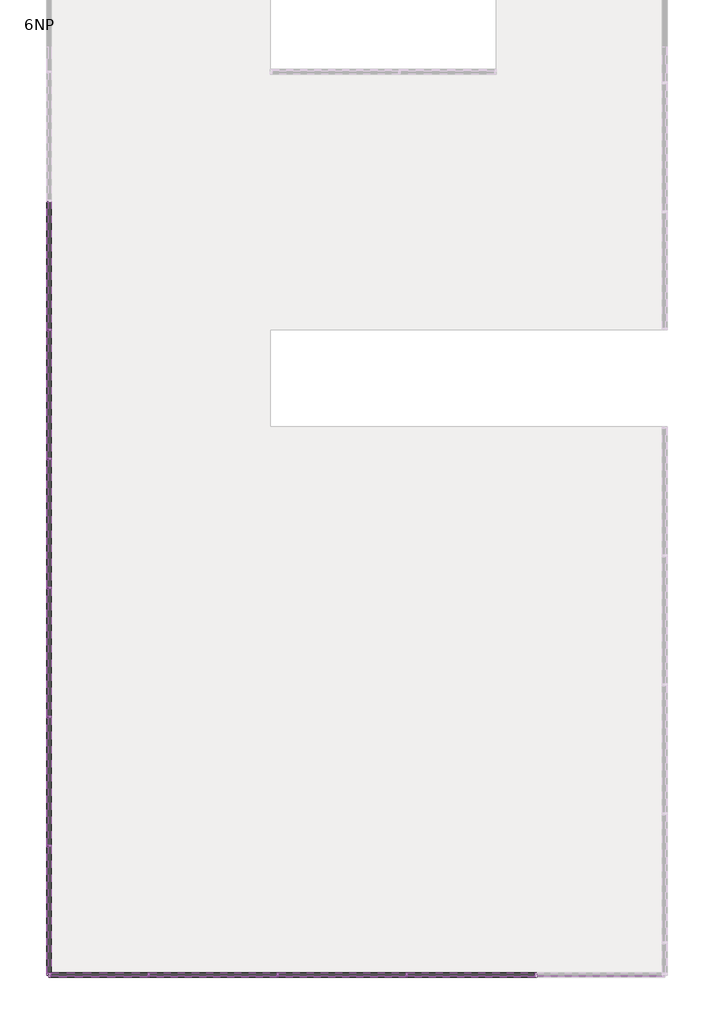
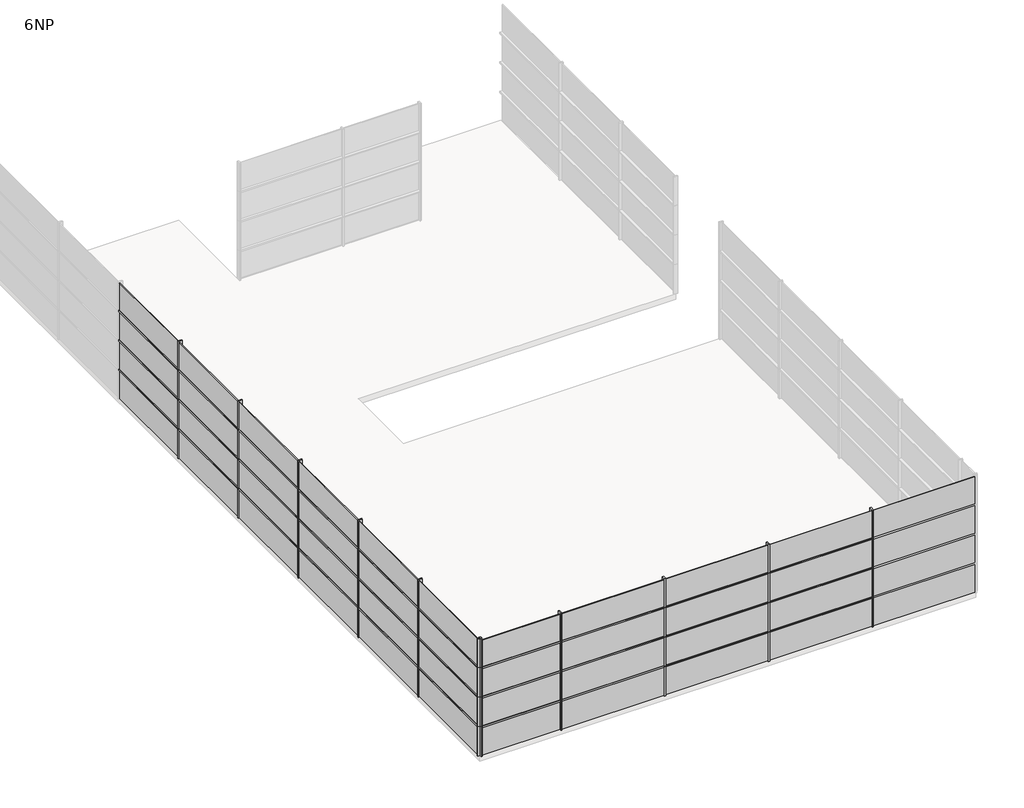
# One storey, part 1 of 3: 74 members, 47 plates.
"""IFC4 building model written with IfcOpenShell, lengths in millimetres."""

from ifc_helpers import new_model, si_unit, origin, place, context, project, spatial, transform, mapped, element, save
from components import rectangular_mullion_50_x_150mm_d99dc9be, rectangular_mullion_50_x_150mm_6588f46c, rectangular_mullion_50_x_150mm_a037c29c, rectangular_mullion_50_x_150mm_c2546fd4, rectangular_mullion_50_x_150mm_568dda71, rectangular_mullion_50_x_150mm_268a5786, rectangular_mullion_50_x_150mm_cd873b1a, system_panel_glazed_8e9402eb, system_panel_glazed_89ac83a7, system_panel_glazed_cf4d7c03, system_panel_glazed_7b3729bb, system_panel_glazed_8c18451d, system_panel_glazed_2dc425e2, system_panel_glazed_f5baf7a3

model = new_model("IFC4")

# Units and contexts
model_context = context("Model", 3, world=origin())
ifc_project = project(units=[si_unit("LENGTHUNIT", "METRE", prefix="MILLI")], contexts=[model_context])

# Site, building, storey
site = spatial("IfcSite", under=ifc_project)
building = spatial("IfcBuilding", under=site)
storey = spatial("IfcBuildingStorey", under=building, Name="6NP", Elevation=24000.0)

# Members
placement = place(None, origin())
rectangular_mullion_50_x_150mm_shape = rectangular_mullion_50_x_150mm_d99dc9be(model_context)
element("IfcMember", 1, ObjectType="Rectangular Mullion : 50 x 150mm", at=placement, inside=storey, context=model_context, shape_type="MappedRepresentation", body=[
    mapped(rectangular_mullion_50_x_150mm_shape, transform((9503.2660975, -23624.0160434, 25200.0), x_axis=(-1.0, 0.0, 0.0), y_axis=(0.0, -1.0, 0.0), z_axis=(0.0, 0.0, 1.0))),
])
element("IfcMember", 2, ObjectType="Rectangular Mullion : 50 x 150mm", at=placement, inside=storey, context=model_context, shape_type="MappedRepresentation", body=[
    mapped(rectangular_mullion_50_x_150mm_shape, transform((9503.2660975, -23624.0160434, 26400.0), x_axis=(-1.0, 0.0, 0.0), y_axis=(0.0, -1.0, 0.0), z_axis=(0.0, 0.0, 1.0))),
])
element("IfcMember", 3, ObjectType="Rectangular Mullion : 50 x 150mm", at=placement, inside=storey, context=model_context, shape_type="MappedRepresentation", body=[
    mapped(rectangular_mullion_50_x_150mm_shape, transform((9503.2660975, -23624.0160434, 27600.0), x_axis=(-1.0, 0.0, 0.0), y_axis=(0.0, -1.0, 0.0), z_axis=(0.0, 0.0, 1.0))),
])
element("IfcMember", 4, ObjectType="Rectangular Mullion : 50 x 150mm", at=placement, inside=storey, context=model_context, shape_type="MappedRepresentation", body=[
    mapped(rectangular_mullion_50_x_150mm_shape, transform((5503.2660975, -23624.0160434, 25200.0), x_axis=(-1.0, 0.0, 0.0), y_axis=(0.0, -1.0, 0.0), z_axis=(0.0, 0.0, 1.0))),
])
element("IfcMember", 5, ObjectType="Rectangular Mullion : 50 x 150mm", at=placement, inside=storey, context=model_context, shape_type="MappedRepresentation", body=[
    mapped(rectangular_mullion_50_x_150mm_shape, transform((5503.2660975, -23624.0160434, 26400.0), x_axis=(-1.0, 0.0, 0.0), y_axis=(0.0, -1.0, 0.0), z_axis=(0.0, 0.0, 1.0))),
])
element("IfcMember", 6, ObjectType="Rectangular Mullion : 50 x 150mm", at=placement, inside=storey, context=model_context, shape_type="MappedRepresentation", body=[
    mapped(rectangular_mullion_50_x_150mm_shape, transform((5503.2660975, -23624.0160434, 27600.0), x_axis=(-1.0, 0.0, 0.0), y_axis=(0.0, -1.0, 0.0), z_axis=(0.0, 0.0, 1.0))),
])
element("IfcMember", 7, ObjectType="Rectangular Mullion : 50 x 150mm", at=placement, inside=storey, context=model_context, shape_type="MappedRepresentation", body=[
    mapped(rectangular_mullion_50_x_150mm_shape, transform((1503.2660975, -23624.0160434, 25200.0), x_axis=(-1.0, 0.0, 0.0), y_axis=(0.0, -1.0, 0.0), z_axis=(0.0, 0.0, 1.0))),
])
element("IfcMember", 8, ObjectType="Rectangular Mullion : 50 x 150mm", at=placement, inside=storey, context=model_context, shape_type="MappedRepresentation", body=[
    mapped(rectangular_mullion_50_x_150mm_shape, transform((1503.2660975, -23624.0160434, 26400.0), x_axis=(-1.0, 0.0, 0.0), y_axis=(0.0, -1.0, 0.0), z_axis=(0.0, 0.0, 1.0))),
])
element("IfcMember", 9, ObjectType="Rectangular Mullion : 50 x 150mm", at=placement, inside=storey, context=model_context, shape_type="MappedRepresentation", body=[
    mapped(rectangular_mullion_50_x_150mm_shape, transform((1503.2660975, -23624.0160434, 27600.0), x_axis=(-1.0, 0.0, 0.0), y_axis=(0.0, -1.0, 0.0), z_axis=(0.0, 0.0, 1.0))),
])
element("IfcMember", 10, ObjectType="Rectangular Mullion : 50 x 150mm", at=placement, inside=storey, context=model_context, shape_type="MappedRepresentation", body=[
    mapped(rectangular_mullion_50_x_150mm_shape, transform((-2496.7339025, -23624.0160434, 25200.0), x_axis=(-1.0, 0.0, 0.0), y_axis=(0.0, -1.0, 0.0), z_axis=(0.0, 0.0, 1.0))),
])
element("IfcMember", 11, ObjectType="Rectangular Mullion : 50 x 150mm", at=placement, inside=storey, context=model_context, shape_type="MappedRepresentation", body=[
    mapped(rectangular_mullion_50_x_150mm_shape, transform((-2496.7339025, -23624.0160434, 26400.0), x_axis=(-1.0, 0.0, 0.0), y_axis=(0.0, -1.0, 0.0), z_axis=(0.0, 0.0, 1.0))),
])
element("IfcMember", 12, ObjectType="Rectangular Mullion : 50 x 150mm", at=placement, inside=storey, context=model_context, shape_type="MappedRepresentation", body=[
    mapped(rectangular_mullion_50_x_150mm_shape, transform((-2496.7339025, -23624.0160434, 27600.0), x_axis=(-1.0, 0.0, 0.0), y_axis=(0.0, -1.0, 0.0), z_axis=(0.0, 0.0, 1.0))),
])
element("IfcMember", 13, ObjectType="Rectangular Mullion : 50 x 150mm", at=placement, inside=storey, context=model_context, shape_type="MappedRepresentation", body=[
    mapped(rectangular_mullion_50_x_150mm_shape, transform((-5587.173406, -19624.0160434, 25200.0), x_axis=(0.0, 1.0, 0.0), y_axis=(-1.0, 0.0, 0.0), z_axis=(0.0, 0.0, 1.0))),
])
element("IfcMember", 14, ObjectType="Rectangular Mullion : 50 x 150mm", at=placement, inside=storey, context=model_context, shape_type="MappedRepresentation", body=[
    mapped(rectangular_mullion_50_x_150mm_shape, transform((-5587.173406, -19624.0160434, 26400.0), x_axis=(0.0, 1.0, 0.0), y_axis=(-1.0, 0.0, 0.0), z_axis=(0.0, 0.0, 1.0))),
])
element("IfcMember", 15, ObjectType="Rectangular Mullion : 50 x 150mm", at=placement, inside=storey, context=model_context, shape_type="MappedRepresentation", body=[
    mapped(rectangular_mullion_50_x_150mm_shape, transform((-5587.173406, -19624.0160434, 27600.0), x_axis=(0.0, 1.0, 0.0), y_axis=(-1.0, 0.0, 0.0), z_axis=(0.0, 0.0, 1.0))),
])
element("IfcMember", 16, ObjectType="Rectangular Mullion : 50 x 150mm", at=placement, inside=storey, context=model_context, shape_type="MappedRepresentation", body=[
    mapped(rectangular_mullion_50_x_150mm_shape, transform((-5587.173406, -15624.0160434, 25200.0), x_axis=(0.0, 1.0, 0.0), y_axis=(-1.0, 0.0, 0.0), z_axis=(0.0, 0.0, 1.0))),
])
element("IfcMember", 17, ObjectType="Rectangular Mullion : 50 x 150mm", at=placement, inside=storey, context=model_context, shape_type="MappedRepresentation", body=[
    mapped(rectangular_mullion_50_x_150mm_shape, transform((-5587.173406, -15624.0160434, 26400.0), x_axis=(0.0, 1.0, 0.0), y_axis=(-1.0, 0.0, 0.0), z_axis=(0.0, 0.0, 1.0))),
])
element("IfcMember", 18, ObjectType="Rectangular Mullion : 50 x 150mm", at=placement, inside=storey, context=model_context, shape_type="MappedRepresentation", body=[
    mapped(rectangular_mullion_50_x_150mm_shape, transform((-5587.173406, -15624.0160434, 27600.0), x_axis=(0.0, 1.0, 0.0), y_axis=(-1.0, 0.0, 0.0), z_axis=(0.0, 0.0, 1.0))),
])
element("IfcMember", 19, ObjectType="Rectangular Mullion : 50 x 150mm", at=placement, inside=storey, context=model_context, shape_type="MappedRepresentation", body=[
    mapped(rectangular_mullion_50_x_150mm_shape, transform((-5587.173406, -11624.0160434, 25200.0), x_axis=(0.0, 1.0, 0.0), y_axis=(-1.0, 0.0, 0.0), z_axis=(0.0, 0.0, 1.0))),
])
element("IfcMember", 20, ObjectType="Rectangular Mullion : 50 x 150mm", at=placement, inside=storey, context=model_context, shape_type="MappedRepresentation", body=[
    mapped(rectangular_mullion_50_x_150mm_shape, transform((-5587.173406, -11624.0160434, 26400.0), x_axis=(0.0, 1.0, 0.0), y_axis=(-1.0, 0.0, 0.0), z_axis=(0.0, 0.0, 1.0))),
])
element("IfcMember", 21, ObjectType="Rectangular Mullion : 50 x 150mm", at=placement, inside=storey, context=model_context, shape_type="MappedRepresentation", body=[
    mapped(rectangular_mullion_50_x_150mm_shape, transform((-5587.173406, -11624.0160434, 27600.0), x_axis=(0.0, 1.0, 0.0), y_axis=(-1.0, 0.0, 0.0), z_axis=(0.0, 0.0, 1.0))),
])
element("IfcMember", 22, ObjectType="Rectangular Mullion : 50 x 150mm", at=placement, inside=storey, context=model_context, shape_type="MappedRepresentation", body=[
    mapped(rectangular_mullion_50_x_150mm_shape, transform((-5587.173406, -7624.0160434, 25200.0), x_axis=(0.0, 1.0, 0.0), y_axis=(-1.0, 0.0, 0.0), z_axis=(0.0, 0.0, 1.0))),
])
element("IfcMember", 23, ObjectType="Rectangular Mullion : 50 x 150mm", at=placement, inside=storey, context=model_context, shape_type="MappedRepresentation", body=[
    mapped(rectangular_mullion_50_x_150mm_shape, transform((-5587.173406, -7624.0160434, 26400.0), x_axis=(0.0, 1.0, 0.0), y_axis=(-1.0, 0.0, 0.0), z_axis=(0.0, 0.0, 1.0))),
])
element("IfcMember", 24, ObjectType="Rectangular Mullion : 50 x 150mm", at=placement, inside=storey, context=model_context, shape_type="MappedRepresentation", body=[
    mapped(rectangular_mullion_50_x_150mm_shape, transform((-5587.173406, -7624.0160434, 27600.0), x_axis=(0.0, 1.0, 0.0), y_axis=(-1.0, 0.0, 0.0), z_axis=(0.0, 0.0, 1.0))),
])
element("IfcMember", 25, ObjectType="Rectangular Mullion : 50 x 150mm", at=placement, inside=storey, context=model_context, shape_type="MappedRepresentation", body=[
    mapped(rectangular_mullion_50_x_150mm_shape, transform((-5587.173406, -3624.0160434, 25200.0), x_axis=(0.0, 1.0, 0.0), y_axis=(-1.0, 0.0, 0.0), z_axis=(0.0, 0.0, 1.0))),
])
element("IfcMember", 26, ObjectType="Rectangular Mullion : 50 x 150mm", at=placement, inside=storey, context=model_context, shape_type="MappedRepresentation", body=[
    mapped(rectangular_mullion_50_x_150mm_shape, transform((-5587.173406, -3624.0160434, 26400.0), x_axis=(0.0, 1.0, 0.0), y_axis=(-1.0, 0.0, 0.0), z_axis=(0.0, 0.0, 1.0))),
])
element("IfcMember", 27, ObjectType="Rectangular Mullion : 50 x 150mm", at=placement, inside=storey, context=model_context, shape_type="MappedRepresentation", body=[
    mapped(rectangular_mullion_50_x_150mm_shape, transform((-5587.173406, -3624.0160434, 27600.0), x_axis=(0.0, 1.0, 0.0), y_axis=(-1.0, 0.0, 0.0), z_axis=(0.0, 0.0, 1.0))),
])
rectangular_mullion_50_x_150mm_2_shape = rectangular_mullion_50_x_150mm_6588f46c(model_context)
element("IfcMember", 28, ObjectType="Rectangular Mullion : 50 x 150mm", at=placement, inside=storey, context=model_context, shape_type="MappedRepresentation", body=[
    mapped(rectangular_mullion_50_x_150mm_2_shape, transform((-5587.173406, -23624.0160434, 25200.0), x_axis=(-1.0, 0.0, 0.0), y_axis=(0.0, -1.0, 0.0), z_axis=(0.0, 0.0, 1.0))),
])
element("IfcMember", 29, ObjectType="Rectangular Mullion : 50 x 150mm", at=placement, inside=storey, context=model_context, shape_type="MappedRepresentation", body=[
    mapped(rectangular_mullion_50_x_150mm_2_shape, transform((-5587.173406, -23624.0160434, 26400.0), x_axis=(-1.0, 0.0, 0.0), y_axis=(0.0, -1.0, 0.0), z_axis=(0.0, 0.0, 1.0))),
])
element("IfcMember", 30, ObjectType="Rectangular Mullion : 50 x 150mm", at=placement, inside=storey, context=model_context, shape_type="MappedRepresentation", body=[
    mapped(rectangular_mullion_50_x_150mm_2_shape, transform((-5587.173406, -23624.0160434, 27600.0), x_axis=(-1.0, 0.0, 0.0), y_axis=(0.0, -1.0, 0.0), z_axis=(0.0, 0.0, 1.0))),
])
rectangular_mullion_50_x_150mm_3_shape = rectangular_mullion_50_x_150mm_a037c29c(model_context)
element("IfcMember", 31, ObjectType="Rectangular Mullion : 50 x 150mm", at=placement, inside=storey, context=model_context, shape_type="MappedRepresentation", body=[
    mapped(rectangular_mullion_50_x_150mm_3_shape, transform((9478.2660975, -23624.0160434, 25200.0), x_axis=(0.0, 0.0, 1.0), y_axis=(0.0, -1.0, 0.0), z_axis=(1.0, 0.0, 0.0))),
])
element("IfcMember", 32, ObjectType="Rectangular Mullion : 50 x 150mm", at=placement, inside=storey, context=model_context, shape_type="MappedRepresentation", body=[
    mapped(rectangular_mullion_50_x_150mm_3_shape, transform((5478.2660975, -23624.0160434, 25200.0), x_axis=(0.0, 0.0, 1.0), y_axis=(0.0, -1.0, 0.0), z_axis=(1.0, 0.0, 0.0))),
])
element("IfcMember", 33, ObjectType="Rectangular Mullion : 50 x 150mm", at=placement, inside=storey, context=model_context, shape_type="MappedRepresentation", body=[
    mapped(rectangular_mullion_50_x_150mm_3_shape, transform((1478.2660975, -23624.0160434, 25200.0), x_axis=(0.0, 0.0, 1.0), y_axis=(0.0, -1.0, 0.0), z_axis=(1.0, 0.0, 0.0))),
])
element("IfcMember", 34, ObjectType="Rectangular Mullion : 50 x 150mm", at=placement, inside=storey, context=model_context, shape_type="MappedRepresentation", body=[
    mapped(rectangular_mullion_50_x_150mm_3_shape, transform((9478.2660975, -23624.0160434, 26400.0), x_axis=(0.0, 0.0, 1.0), y_axis=(0.0, -1.0, 0.0), z_axis=(1.0, 0.0, 0.0))),
])
element("IfcMember", 35, ObjectType="Rectangular Mullion : 50 x 150mm", at=placement, inside=storey, context=model_context, shape_type="MappedRepresentation", body=[
    mapped(rectangular_mullion_50_x_150mm_3_shape, transform((5478.2660975, -23624.0160434, 26400.0), x_axis=(0.0, 0.0, 1.0), y_axis=(0.0, -1.0, 0.0), z_axis=(1.0, 0.0, 0.0))),
])
element("IfcMember", 36, ObjectType="Rectangular Mullion : 50 x 150mm", at=placement, inside=storey, context=model_context, shape_type="MappedRepresentation", body=[
    mapped(rectangular_mullion_50_x_150mm_3_shape, transform((1478.2660975, -23624.0160434, 26400.0), x_axis=(0.0, 0.0, 1.0), y_axis=(0.0, -1.0, 0.0), z_axis=(1.0, 0.0, 0.0))),
])
element("IfcMember", 37, ObjectType="Rectangular Mullion : 50 x 150mm", at=placement, inside=storey, context=model_context, shape_type="MappedRepresentation", body=[
    mapped(rectangular_mullion_50_x_150mm_3_shape, transform((9478.2660975, -23624.0160434, 27600.0), x_axis=(0.0, 0.0, 1.0), y_axis=(0.0, -1.0, 0.0), z_axis=(1.0, 0.0, 0.0))),
])
element("IfcMember", 38, ObjectType="Rectangular Mullion : 50 x 150mm", at=placement, inside=storey, context=model_context, shape_type="MappedRepresentation", body=[
    mapped(rectangular_mullion_50_x_150mm_3_shape, transform((5478.2660975, -23624.0160434, 27600.0), x_axis=(0.0, 0.0, 1.0), y_axis=(0.0, -1.0, 0.0), z_axis=(1.0, 0.0, 0.0))),
])
element("IfcMember", 39, ObjectType="Rectangular Mullion : 50 x 150mm", at=placement, inside=storey, context=model_context, shape_type="MappedRepresentation", body=[
    mapped(rectangular_mullion_50_x_150mm_3_shape, transform((1478.2660975, -23624.0160434, 27600.0), x_axis=(0.0, 0.0, 1.0), y_axis=(0.0, -1.0, 0.0), z_axis=(1.0, 0.0, 0.0))),
])
element("IfcMember", 40, ObjectType="Rectangular Mullion : 50 x 150mm", at=placement, inside=storey, context=model_context, shape_type="MappedRepresentation", body=[
    mapped(rectangular_mullion_50_x_150mm_3_shape, transform((-5587.173406, -19599.0160434, 25200.0), x_axis=(0.0, 0.0, 1.0), y_axis=(-1.0, 0.0, 0.0), z_axis=(0.0, -1.0, 0.0))),
])
element("IfcMember", 41, ObjectType="Rectangular Mullion : 50 x 150mm", at=placement, inside=storey, context=model_context, shape_type="MappedRepresentation", body=[
    mapped(rectangular_mullion_50_x_150mm_3_shape, transform((-5587.173406, -15599.0160434, 25200.0), x_axis=(0.0, 0.0, 1.0), y_axis=(-1.0, 0.0, 0.0), z_axis=(0.0, -1.0, 0.0))),
])
element("IfcMember", 42, ObjectType="Rectangular Mullion : 50 x 150mm", at=placement, inside=storey, context=model_context, shape_type="MappedRepresentation", body=[
    mapped(rectangular_mullion_50_x_150mm_3_shape, transform((-5587.173406, -11599.0160434, 25200.0), x_axis=(0.0, 0.0, 1.0), y_axis=(-1.0, 0.0, 0.0), z_axis=(0.0, -1.0, 0.0))),
])
element("IfcMember", 43, ObjectType="Rectangular Mullion : 50 x 150mm", at=placement, inside=storey, context=model_context, shape_type="MappedRepresentation", body=[
    mapped(rectangular_mullion_50_x_150mm_3_shape, transform((-5587.173406, -7599.0160434, 25200.0), x_axis=(0.0, 0.0, 1.0), y_axis=(-1.0, 0.0, 0.0), z_axis=(0.0, -1.0, 0.0))),
])
element("IfcMember", 44, ObjectType="Rectangular Mullion : 50 x 150mm", at=placement, inside=storey, context=model_context, shape_type="MappedRepresentation", body=[
    mapped(rectangular_mullion_50_x_150mm_3_shape, transform((-5587.173406, -3599.0160434, 25200.0), x_axis=(0.0, 0.0, 1.0), y_axis=(-1.0, 0.0, 0.0), z_axis=(0.0, -1.0, 0.0))),
])
element("IfcMember", 45, ObjectType="Rectangular Mullion : 50 x 150mm", at=placement, inside=storey, context=model_context, shape_type="MappedRepresentation", body=[
    mapped(rectangular_mullion_50_x_150mm_3_shape, transform((-5587.173406, -19599.0160434, 26400.0), x_axis=(0.0, 0.0, 1.0), y_axis=(-1.0, 0.0, 0.0), z_axis=(0.0, -1.0, 0.0))),
])
element("IfcMember", 46, ObjectType="Rectangular Mullion : 50 x 150mm", at=placement, inside=storey, context=model_context, shape_type="MappedRepresentation", body=[
    mapped(rectangular_mullion_50_x_150mm_3_shape, transform((-5587.173406, -15599.0160434, 26400.0), x_axis=(0.0, 0.0, 1.0), y_axis=(-1.0, 0.0, 0.0), z_axis=(0.0, -1.0, 0.0))),
])
element("IfcMember", 47, ObjectType="Rectangular Mullion : 50 x 150mm", at=placement, inside=storey, context=model_context, shape_type="MappedRepresentation", body=[
    mapped(rectangular_mullion_50_x_150mm_3_shape, transform((-5587.173406, -11599.0160434, 26400.0), x_axis=(0.0, 0.0, 1.0), y_axis=(-1.0, 0.0, 0.0), z_axis=(0.0, -1.0, 0.0))),
])
element("IfcMember", 48, ObjectType="Rectangular Mullion : 50 x 150mm", at=placement, inside=storey, context=model_context, shape_type="MappedRepresentation", body=[
    mapped(rectangular_mullion_50_x_150mm_3_shape, transform((-5587.173406, -7599.0160434, 26400.0), x_axis=(0.0, 0.0, 1.0), y_axis=(-1.0, 0.0, 0.0), z_axis=(0.0, -1.0, 0.0))),
])
element("IfcMember", 49, ObjectType="Rectangular Mullion : 50 x 150mm", at=placement, inside=storey, context=model_context, shape_type="MappedRepresentation", body=[
    mapped(rectangular_mullion_50_x_150mm_3_shape, transform((-5587.173406, -3599.0160434, 26400.0), x_axis=(0.0, 0.0, 1.0), y_axis=(-1.0, 0.0, 0.0), z_axis=(0.0, -1.0, 0.0))),
])
element("IfcMember", 50, ObjectType="Rectangular Mullion : 50 x 150mm", at=placement, inside=storey, context=model_context, shape_type="MappedRepresentation", body=[
    mapped(rectangular_mullion_50_x_150mm_3_shape, transform((-5587.173406, -19599.0160434, 27600.0), x_axis=(0.0, 0.0, 1.0), y_axis=(-1.0, 0.0, 0.0), z_axis=(0.0, -1.0, 0.0))),
])
element("IfcMember", 51, ObjectType="Rectangular Mullion : 50 x 150mm", at=placement, inside=storey, context=model_context, shape_type="MappedRepresentation", body=[
    mapped(rectangular_mullion_50_x_150mm_3_shape, transform((-5587.173406, -15599.0160434, 27600.0), x_axis=(0.0, 0.0, 1.0), y_axis=(-1.0, 0.0, 0.0), z_axis=(0.0, -1.0, 0.0))),
])
element("IfcMember", 52, ObjectType="Rectangular Mullion : 50 x 150mm", at=placement, inside=storey, context=model_context, shape_type="MappedRepresentation", body=[
    mapped(rectangular_mullion_50_x_150mm_3_shape, transform((-5587.173406, -11599.0160434, 27600.0), x_axis=(0.0, 0.0, 1.0), y_axis=(-1.0, 0.0, 0.0), z_axis=(0.0, -1.0, 0.0))),
])
element("IfcMember", 53, ObjectType="Rectangular Mullion : 50 x 150mm", at=placement, inside=storey, context=model_context, shape_type="MappedRepresentation", body=[
    mapped(rectangular_mullion_50_x_150mm_3_shape, transform((-5587.173406, -7599.0160434, 27600.0), x_axis=(0.0, 0.0, 1.0), y_axis=(-1.0, 0.0, 0.0), z_axis=(0.0, -1.0, 0.0))),
])
element("IfcMember", 54, ObjectType="Rectangular Mullion : 50 x 150mm", at=placement, inside=storey, context=model_context, shape_type="MappedRepresentation", body=[
    mapped(rectangular_mullion_50_x_150mm_3_shape, transform((-5587.173406, -3599.0160434, 27600.0), x_axis=(0.0, 0.0, 1.0), y_axis=(-1.0, 0.0, 0.0), z_axis=(0.0, -1.0, 0.0))),
])
rectangular_mullion_50_x_150mm_4_shape = rectangular_mullion_50_x_150mm_c2546fd4(model_context)
element("IfcMember", 55, ObjectType="Rectangular Mullion : 50 x 150mm", at=placement, inside=storey, context=model_context, shape_type="MappedRepresentation", body=[
    mapped(rectangular_mullion_50_x_150mm_4_shape, transform((-5587.173406, -23574.0160434, 25200.0), x_axis=(0.0, 0.0, 1.0), y_axis=(-1.0, 0.0, 0.0), z_axis=(0.0, -1.0, 0.0))),
])
element("IfcMember", 56, ObjectType="Rectangular Mullion : 50 x 150mm", at=placement, inside=storey, context=model_context, shape_type="MappedRepresentation", body=[
    mapped(rectangular_mullion_50_x_150mm_4_shape, transform((-5587.173406, -23574.0160434, 26400.0), x_axis=(0.0, 0.0, 1.0), y_axis=(-1.0, 0.0, 0.0), z_axis=(0.0, -1.0, 0.0))),
])
element("IfcMember", 57, ObjectType="Rectangular Mullion : 50 x 150mm", at=placement, inside=storey, context=model_context, shape_type="MappedRepresentation", body=[
    mapped(rectangular_mullion_50_x_150mm_4_shape, transform((-5587.173406, -23574.0160434, 27600.0), x_axis=(0.0, 0.0, 1.0), y_axis=(-1.0, 0.0, 0.0), z_axis=(0.0, -1.0, 0.0))),
])
rectangular_mullion_50_x_150mm_5_shape = rectangular_mullion_50_x_150mm_568dda71(model_context)
element("IfcMember", 58, ObjectType="Rectangular Mullion : 50 x 150mm", at=placement, inside=storey, context=model_context, shape_type="MappedRepresentation", body=[
    mapped(rectangular_mullion_50_x_150mm_5_shape, transform((9503.2660975, -23624.0160434, 28773.2453384), x_axis=(-1.0, 0.0, 0.0), y_axis=(0.0, -1.0, 0.0), z_axis=(0.0, 0.0, 1.0))),
])
element("IfcMember", 59, ObjectType="Rectangular Mullion : 50 x 150mm", at=placement, inside=storey, context=model_context, shape_type="MappedRepresentation", body=[
    mapped(rectangular_mullion_50_x_150mm_5_shape, transform((5503.2660975, -23624.0160434, 28773.2453384), x_axis=(-1.0, 0.0, 0.0), y_axis=(0.0, -1.0, 0.0), z_axis=(0.0, 0.0, 1.0))),
])
element("IfcMember", 60, ObjectType="Rectangular Mullion : 50 x 150mm", at=placement, inside=storey, context=model_context, shape_type="MappedRepresentation", body=[
    mapped(rectangular_mullion_50_x_150mm_5_shape, transform((1503.2660975, -23624.0160434, 28773.2453384), x_axis=(-1.0, 0.0, 0.0), y_axis=(0.0, -1.0, 0.0), z_axis=(0.0, 0.0, 1.0))),
])
element("IfcMember", 61, ObjectType="Rectangular Mullion : 50 x 150mm", at=placement, inside=storey, context=model_context, shape_type="MappedRepresentation", body=[
    mapped(rectangular_mullion_50_x_150mm_5_shape, transform((-2496.7339025, -23624.0160434, 28773.2453384), x_axis=(-1.0, 0.0, 0.0), y_axis=(0.0, -1.0, 0.0), z_axis=(0.0, 0.0, 1.0))),
])
element("IfcMember", 62, ObjectType="Rectangular Mullion : 50 x 150mm", at=placement, inside=storey, context=model_context, shape_type="MappedRepresentation", body=[
    mapped(rectangular_mullion_50_x_150mm_5_shape, transform((-5587.173406, -19624.0160434, 28773.2453384), x_axis=(0.0, 1.0, 0.0), y_axis=(-1.0, 0.0, 0.0), z_axis=(0.0, 0.0, 1.0))),
])
element("IfcMember", 63, ObjectType="Rectangular Mullion : 50 x 150mm", at=placement, inside=storey, context=model_context, shape_type="MappedRepresentation", body=[
    mapped(rectangular_mullion_50_x_150mm_5_shape, transform((-5587.173406, -15624.0160434, 28773.2453384), x_axis=(0.0, 1.0, 0.0), y_axis=(-1.0, 0.0, 0.0), z_axis=(0.0, 0.0, 1.0))),
])
element("IfcMember", 64, ObjectType="Rectangular Mullion : 50 x 150mm", at=placement, inside=storey, context=model_context, shape_type="MappedRepresentation", body=[
    mapped(rectangular_mullion_50_x_150mm_5_shape, transform((-5587.173406, -11624.0160434, 28773.2453384), x_axis=(0.0, 1.0, 0.0), y_axis=(-1.0, 0.0, 0.0), z_axis=(0.0, 0.0, 1.0))),
])
element("IfcMember", 65, ObjectType="Rectangular Mullion : 50 x 150mm", at=placement, inside=storey, context=model_context, shape_type="MappedRepresentation", body=[
    mapped(rectangular_mullion_50_x_150mm_5_shape, transform((-5587.173406, -7624.0160434, 28773.2453384), x_axis=(0.0, 1.0, 0.0), y_axis=(-1.0, 0.0, 0.0), z_axis=(0.0, 0.0, 1.0))),
])
element("IfcMember", 66, ObjectType="Rectangular Mullion : 50 x 150mm", at=placement, inside=storey, context=model_context, shape_type="MappedRepresentation", body=[
    mapped(rectangular_mullion_50_x_150mm_5_shape, transform((-5587.173406, -3624.0160434, 28773.2453384), x_axis=(0.0, 1.0, 0.0), y_axis=(-1.0, 0.0, 0.0), z_axis=(0.0, 0.0, 1.0))),
])
rectangular_mullion_50_x_150mm_6_shape = rectangular_mullion_50_x_150mm_268a5786(model_context)
element("IfcMember", 67, ObjectType="Rectangular Mullion : 50 x 150mm", at=placement, inside=storey, context=model_context, shape_type="MappedRepresentation", body=[
    mapped(rectangular_mullion_50_x_150mm_6_shape, transform((-5587.173406, -23624.0160434, 28773.2453384), x_axis=(-1.0, 0.0, 0.0), y_axis=(0.0, -1.0, 0.0), z_axis=(0.0, 0.0, 1.0))),
])
element("IfcMember", 68, ObjectType="Rectangular Mullion : 50 x 150mm", at=placement, inside=storey, context=model_context, shape_type="MappedRepresentation", body=[
    mapped(rectangular_mullion_50_x_150mm_6_shape, transform((-5587.173406, -23624.0160434, 27600.0), x_axis=(0.0, -1.0, 0.0), y_axis=(-1.0, 0.0, 0.0), z_axis=(0.0, 0.0, -1.0))),
])
element("IfcMember", 69, ObjectType="Rectangular Mullion : 50 x 150mm", at=placement, inside=storey, context=model_context, shape_type="MappedRepresentation", body=[
    mapped(rectangular_mullion_50_x_150mm_2_shape, transform((-5587.173406, -23624.0160434, 24000.0), x_axis=(0.0, -1.0, 0.0), y_axis=(-1.0, 0.0, 0.0), z_axis=(0.0, 0.0, -1.0))),
])
element("IfcMember", 70, ObjectType="Rectangular Mullion : 50 x 150mm", at=placement, inside=storey, context=model_context, shape_type="MappedRepresentation", body=[
    mapped(rectangular_mullion_50_x_150mm_2_shape, transform((-5587.173406, -23624.0160434, 25200.0), x_axis=(0.0, -1.0, 0.0), y_axis=(-1.0, 0.0, 0.0), z_axis=(0.0, 0.0, -1.0))),
])
element("IfcMember", 71, ObjectType="Rectangular Mullion : 50 x 150mm", at=placement, inside=storey, context=model_context, shape_type="MappedRepresentation", body=[
    mapped(rectangular_mullion_50_x_150mm_2_shape, transform((-5587.173406, -23624.0160434, 26400.0), x_axis=(0.0, -1.0, 0.0), y_axis=(-1.0, 0.0, 0.0), z_axis=(0.0, 0.0, -1.0))),
])
rectangular_mullion_50_x_150mm_7_shape = rectangular_mullion_50_x_150mm_cd873b1a(model_context)
element("IfcMember", 72, ObjectType="Rectangular Mullion : 50 x 150mm", at=placement, inside=storey, context=model_context, shape_type="MappedRepresentation", body=[
    mapped(rectangular_mullion_50_x_150mm_7_shape, transform((-2521.7339025, -23624.0160434, 25200.0), x_axis=(0.0, 0.0, 1.0), y_axis=(0.0, -1.0, 0.0), z_axis=(1.0, 0.0, 0.0))),
])
element("IfcMember", 73, ObjectType="Rectangular Mullion : 50 x 150mm", at=placement, inside=storey, context=model_context, shape_type="MappedRepresentation", body=[
    mapped(rectangular_mullion_50_x_150mm_7_shape, transform((-2521.7339025, -23624.0160434, 26400.0), x_axis=(0.0, 0.0, 1.0), y_axis=(0.0, -1.0, 0.0), z_axis=(1.0, 0.0, 0.0))),
])
element("IfcMember", 74, ObjectType="Rectangular Mullion : 50 x 150mm", at=placement, inside=storey, context=model_context, shape_type="MappedRepresentation", body=[
    mapped(rectangular_mullion_50_x_150mm_7_shape, transform((-2521.7339025, -23624.0160434, 27600.0), x_axis=(0.0, 0.0, 1.0), y_axis=(0.0, -1.0, 0.0), z_axis=(1.0, 0.0, 0.0))),
])

# Plates
system_panel_glazed_shape = system_panel_glazed_8e9402eb(model_context)
element("IfcPlate", 75, ObjectType="System Panel : Glazed", at=placement, inside=storey, context=model_context, shape_type="MappedRepresentation", body=[
    mapped(system_panel_glazed_shape, transform((-5587.173406, -21611.5160434, 24025.0), x_axis=(0.0, 1.0, 0.0), y_axis=(-1.0, 0.0, 0.0), z_axis=(0.0, 0.0, 1.0))),
])
element("IfcPlate", 76, ObjectType="System Panel : Glazed", at=placement, inside=storey, context=model_context, shape_type="MappedRepresentation", body=[
    mapped(system_panel_glazed_shape, transform((-5587.173406, -21611.5160434, 25225.0), x_axis=(0.0, 1.0, 0.0), y_axis=(-1.0, 0.0, 0.0), z_axis=(0.0, 0.0, 1.0))),
])
element("IfcPlate", 77, ObjectType="System Panel : Glazed", at=placement, inside=storey, context=model_context, shape_type="MappedRepresentation", body=[
    mapped(system_panel_glazed_shape, transform((-5587.173406, -21611.5160434, 26425.0), x_axis=(0.0, 1.0, 0.0), y_axis=(-1.0, 0.0, 0.0), z_axis=(0.0, 0.0, 1.0))),
])
element("IfcPlate", 78, ObjectType="System Panel : Glazed", at=placement, inside=storey, context=model_context, shape_type="MappedRepresentation", body=[
    mapped(system_panel_glazed_shape, transform((11490.7660975, -23624.0160434, 24025.0), x_axis=(-1.0, 0.0, 0.0), y_axis=(0.0, -1.0, 0.0), z_axis=(0.0, 0.0, 1.0))),
])
element("IfcPlate", 79, ObjectType="System Panel : Glazed", at=placement, inside=storey, context=model_context, shape_type="MappedRepresentation", body=[
    mapped(system_panel_glazed_shape, transform((11490.7660975, -23624.0160434, 25225.0), x_axis=(-1.0, 0.0, 0.0), y_axis=(0.0, -1.0, 0.0), z_axis=(0.0, 0.0, 1.0))),
])
element("IfcPlate", 80, ObjectType="System Panel : Glazed", at=placement, inside=storey, context=model_context, shape_type="MappedRepresentation", body=[
    mapped(system_panel_glazed_shape, transform((11490.7660975, -23624.0160434, 26425.0), x_axis=(-1.0, 0.0, 0.0), y_axis=(0.0, -1.0, 0.0), z_axis=(0.0, 0.0, 1.0))),
])
system_panel_glazed_2_shape = system_panel_glazed_89ac83a7(model_context)
element("IfcPlate", 81, ObjectType="System Panel : Glazed", at=placement, inside=storey, context=model_context, shape_type="MappedRepresentation", body=[
    mapped(system_panel_glazed_2_shape, transform((-5587.173406, -17624.0160434, 24025.0), x_axis=(0.0, 1.0, 0.0), y_axis=(-1.0, 0.0, 0.0), z_axis=(0.0, 0.0, 1.0))),
])
element("IfcPlate", 82, ObjectType="System Panel : Glazed", at=placement, inside=storey, context=model_context, shape_type="MappedRepresentation", body=[
    mapped(system_panel_glazed_2_shape, transform((-5587.173406, -13624.0160434, 24025.0), x_axis=(0.0, 1.0, 0.0), y_axis=(-1.0, 0.0, 0.0), z_axis=(0.0, 0.0, 1.0))),
])
element("IfcPlate", 83, ObjectType="System Panel : Glazed", at=placement, inside=storey, context=model_context, shape_type="MappedRepresentation", body=[
    mapped(system_panel_glazed_2_shape, transform((-5587.173406, -9624.0160434, 24025.0), x_axis=(0.0, 1.0, 0.0), y_axis=(-1.0, 0.0, 0.0), z_axis=(0.0, 0.0, 1.0))),
])
element("IfcPlate", 84, ObjectType="System Panel : Glazed", at=placement, inside=storey, context=model_context, shape_type="MappedRepresentation", body=[
    mapped(system_panel_glazed_2_shape, transform((-5587.173406, -5624.0160434, 24025.0), x_axis=(0.0, 1.0, 0.0), y_axis=(-1.0, 0.0, 0.0), z_axis=(0.0, 0.0, 1.0))),
])
element("IfcPlate", 85, ObjectType="System Panel : Glazed", at=placement, inside=storey, context=model_context, shape_type="MappedRepresentation", body=[
    mapped(system_panel_glazed_2_shape, transform((-5587.173406, -1624.0160434, 24025.0), x_axis=(0.0, 1.0, 0.0), y_axis=(-1.0, 0.0, 0.0), z_axis=(0.0, 0.0, 1.0))),
])
element("IfcPlate", 86, ObjectType="System Panel : Glazed", at=placement, inside=storey, context=model_context, shape_type="MappedRepresentation", body=[
    mapped(system_panel_glazed_2_shape, transform((-5587.173406, -17624.0160434, 25225.0), x_axis=(0.0, 1.0, 0.0), y_axis=(-1.0, 0.0, 0.0), z_axis=(0.0, 0.0, 1.0))),
])
element("IfcPlate", 87, ObjectType="System Panel : Glazed", at=placement, inside=storey, context=model_context, shape_type="MappedRepresentation", body=[
    mapped(system_panel_glazed_2_shape, transform((-5587.173406, -13624.0160434, 25225.0), x_axis=(0.0, 1.0, 0.0), y_axis=(-1.0, 0.0, 0.0), z_axis=(0.0, 0.0, 1.0))),
])
element("IfcPlate", 88, ObjectType="System Panel : Glazed", at=placement, inside=storey, context=model_context, shape_type="MappedRepresentation", body=[
    mapped(system_panel_glazed_2_shape, transform((-5587.173406, -9624.0160434, 25225.0), x_axis=(0.0, 1.0, 0.0), y_axis=(-1.0, 0.0, 0.0), z_axis=(0.0, 0.0, 1.0))),
])
element("IfcPlate", 89, ObjectType="System Panel : Glazed", at=placement, inside=storey, context=model_context, shape_type="MappedRepresentation", body=[
    mapped(system_panel_glazed_2_shape, transform((-5587.173406, -5624.0160434, 25225.0), x_axis=(0.0, 1.0, 0.0), y_axis=(-1.0, 0.0, 0.0), z_axis=(0.0, 0.0, 1.0))),
])
element("IfcPlate", 90, ObjectType="System Panel : Glazed", at=placement, inside=storey, context=model_context, shape_type="MappedRepresentation", body=[
    mapped(system_panel_glazed_2_shape, transform((-5587.173406, -1624.0160434, 25225.0), x_axis=(0.0, 1.0, 0.0), y_axis=(-1.0, 0.0, 0.0), z_axis=(0.0, 0.0, 1.0))),
])
element("IfcPlate", 91, ObjectType="System Panel : Glazed", at=placement, inside=storey, context=model_context, shape_type="MappedRepresentation", body=[
    mapped(system_panel_glazed_2_shape, transform((-5587.173406, -17624.0160434, 26425.0), x_axis=(0.0, 1.0, 0.0), y_axis=(-1.0, 0.0, 0.0), z_axis=(0.0, 0.0, 1.0))),
])
element("IfcPlate", 92, ObjectType="System Panel : Glazed", at=placement, inside=storey, context=model_context, shape_type="MappedRepresentation", body=[
    mapped(system_panel_glazed_2_shape, transform((-5587.173406, -13624.0160434, 26425.0), x_axis=(0.0, 1.0, 0.0), y_axis=(-1.0, 0.0, 0.0), z_axis=(0.0, 0.0, 1.0))),
])
element("IfcPlate", 93, ObjectType="System Panel : Glazed", at=placement, inside=storey, context=model_context, shape_type="MappedRepresentation", body=[
    mapped(system_panel_glazed_2_shape, transform((-5587.173406, -9624.0160434, 26425.0), x_axis=(0.0, 1.0, 0.0), y_axis=(-1.0, 0.0, 0.0), z_axis=(0.0, 0.0, 1.0))),
])
element("IfcPlate", 94, ObjectType="System Panel : Glazed", at=placement, inside=storey, context=model_context, shape_type="MappedRepresentation", body=[
    mapped(system_panel_glazed_2_shape, transform((-5587.173406, -5624.0160434, 26425.0), x_axis=(0.0, 1.0, 0.0), y_axis=(-1.0, 0.0, 0.0), z_axis=(0.0, 0.0, 1.0))),
])
element("IfcPlate", 95, ObjectType="System Panel : Glazed", at=placement, inside=storey, context=model_context, shape_type="MappedRepresentation", body=[
    mapped(system_panel_glazed_2_shape, transform((-5587.173406, -1624.0160434, 26425.0), x_axis=(0.0, 1.0, 0.0), y_axis=(-1.0, 0.0, 0.0), z_axis=(0.0, 0.0, 1.0))),
])
element("IfcPlate", 96, ObjectType="System Panel : Glazed", at=placement, inside=storey, context=model_context, shape_type="MappedRepresentation", body=[
    mapped(system_panel_glazed_2_shape, transform((7503.2660975, -23624.0160434, 24025.0), x_axis=(-1.0, 0.0, 0.0), y_axis=(0.0, -1.0, 0.0), z_axis=(0.0, 0.0, 1.0))),
])
element("IfcPlate", 97, ObjectType="System Panel : Glazed", at=placement, inside=storey, context=model_context, shape_type="MappedRepresentation", body=[
    mapped(system_panel_glazed_2_shape, transform((3503.2660975, -23624.0160434, 24025.0), x_axis=(-1.0, 0.0, 0.0), y_axis=(0.0, -1.0, 0.0), z_axis=(0.0, 0.0, 1.0))),
])
element("IfcPlate", 98, ObjectType="System Panel : Glazed", at=placement, inside=storey, context=model_context, shape_type="MappedRepresentation", body=[
    mapped(system_panel_glazed_2_shape, transform((-496.7339025, -23624.0160434, 24025.0), x_axis=(-1.0, 0.0, 0.0), y_axis=(0.0, -1.0, 0.0), z_axis=(0.0, 0.0, 1.0))),
])
element("IfcPlate", 99, ObjectType="System Panel : Glazed", at=placement, inside=storey, context=model_context, shape_type="MappedRepresentation", body=[
    mapped(system_panel_glazed_2_shape, transform((7503.2660975, -23624.0160434, 25225.0), x_axis=(-1.0, 0.0, 0.0), y_axis=(0.0, -1.0, 0.0), z_axis=(0.0, 0.0, 1.0))),
])
element("IfcPlate", 100, ObjectType="System Panel : Glazed", at=placement, inside=storey, context=model_context, shape_type="MappedRepresentation", body=[
    mapped(system_panel_glazed_2_shape, transform((3503.2660975, -23624.0160434, 25225.0), x_axis=(-1.0, 0.0, 0.0), y_axis=(0.0, -1.0, 0.0), z_axis=(0.0, 0.0, 1.0))),
])
element("IfcPlate", 101, ObjectType="System Panel : Glazed", at=placement, inside=storey, context=model_context, shape_type="MappedRepresentation", body=[
    mapped(system_panel_glazed_2_shape, transform((-496.7339025, -23624.0160434, 25225.0), x_axis=(-1.0, 0.0, 0.0), y_axis=(0.0, -1.0, 0.0), z_axis=(0.0, 0.0, 1.0))),
])
element("IfcPlate", 102, ObjectType="System Panel : Glazed", at=placement, inside=storey, context=model_context, shape_type="MappedRepresentation", body=[
    mapped(system_panel_glazed_2_shape, transform((7503.2660975, -23624.0160434, 26425.0), x_axis=(-1.0, 0.0, 0.0), y_axis=(0.0, -1.0, 0.0), z_axis=(0.0, 0.0, 1.0))),
])
element("IfcPlate", 103, ObjectType="System Panel : Glazed", at=placement, inside=storey, context=model_context, shape_type="MappedRepresentation", body=[
    mapped(system_panel_glazed_2_shape, transform((3503.2660975, -23624.0160434, 26425.0), x_axis=(-1.0, 0.0, 0.0), y_axis=(0.0, -1.0, 0.0), z_axis=(0.0, 0.0, 1.0))),
])
element("IfcPlate", 104, ObjectType="System Panel : Glazed", at=placement, inside=storey, context=model_context, shape_type="MappedRepresentation", body=[
    mapped(system_panel_glazed_2_shape, transform((-496.7339025, -23624.0160434, 26425.0), x_axis=(-1.0, 0.0, 0.0), y_axis=(0.0, -1.0, 0.0), z_axis=(0.0, 0.0, 1.0))),
])
system_panel_glazed_3_shape = system_panel_glazed_cf4d7c03(model_context)
element("IfcPlate", 105, ObjectType="System Panel : Glazed", at=placement, inside=storey, context=model_context, shape_type="MappedRepresentation", body=[
    mapped(system_panel_glazed_3_shape, transform((-5587.173406, -21611.5160434, 27625.0), x_axis=(0.0, 1.0, 0.0), y_axis=(-1.0, 0.0, 0.0), z_axis=(0.0, 0.0, 1.0))),
])
element("IfcPlate", 106, ObjectType="System Panel : Glazed", at=placement, inside=storey, context=model_context, shape_type="MappedRepresentation", body=[
    mapped(system_panel_glazed_3_shape, transform((11490.7660975, -23624.0160434, 27625.0), x_axis=(-1.0, 0.0, 0.0), y_axis=(0.0, -1.0, 0.0), z_axis=(0.0, 0.0, 1.0))),
])
system_panel_glazed_4_shape = system_panel_glazed_7b3729bb(model_context)
element("IfcPlate", 107, ObjectType="System Panel : Glazed", at=placement, inside=storey, context=model_context, shape_type="MappedRepresentation", body=[
    mapped(system_panel_glazed_4_shape, transform((-5587.173406, -17624.0160434, 27625.0), x_axis=(0.0, 1.0, 0.0), y_axis=(-1.0, 0.0, 0.0), z_axis=(0.0, 0.0, 1.0))),
])
element("IfcPlate", 108, ObjectType="System Panel : Glazed", at=placement, inside=storey, context=model_context, shape_type="MappedRepresentation", body=[
    mapped(system_panel_glazed_4_shape, transform((-5587.173406, -13624.0160434, 27625.0), x_axis=(0.0, 1.0, 0.0), y_axis=(-1.0, 0.0, 0.0), z_axis=(0.0, 0.0, 1.0))),
])
element("IfcPlate", 109, ObjectType="System Panel : Glazed", at=placement, inside=storey, context=model_context, shape_type="MappedRepresentation", body=[
    mapped(system_panel_glazed_4_shape, transform((-5587.173406, -9624.0160434, 27625.0), x_axis=(0.0, 1.0, 0.0), y_axis=(-1.0, 0.0, 0.0), z_axis=(0.0, 0.0, 1.0))),
])
element("IfcPlate", 110, ObjectType="System Panel : Glazed", at=placement, inside=storey, context=model_context, shape_type="MappedRepresentation", body=[
    mapped(system_panel_glazed_4_shape, transform((-5587.173406, -5624.0160434, 27625.0), x_axis=(0.0, 1.0, 0.0), y_axis=(-1.0, 0.0, 0.0), z_axis=(0.0, 0.0, 1.0))),
])
element("IfcPlate", 111, ObjectType="System Panel : Glazed", at=placement, inside=storey, context=model_context, shape_type="MappedRepresentation", body=[
    mapped(system_panel_glazed_4_shape, transform((-5587.173406, -1624.0160434, 27625.0), x_axis=(0.0, 1.0, 0.0), y_axis=(-1.0, 0.0, 0.0), z_axis=(0.0, 0.0, 1.0))),
])
element("IfcPlate", 112, ObjectType="System Panel : Glazed", at=placement, inside=storey, context=model_context, shape_type="MappedRepresentation", body=[
    mapped(system_panel_glazed_4_shape, transform((7503.2660975, -23624.0160434, 27625.0), x_axis=(-1.0, 0.0, 0.0), y_axis=(0.0, -1.0, 0.0), z_axis=(0.0, 0.0, 1.0))),
])
element("IfcPlate", 113, ObjectType="System Panel : Glazed", at=placement, inside=storey, context=model_context, shape_type="MappedRepresentation", body=[
    mapped(system_panel_glazed_4_shape, transform((3503.2660975, -23624.0160434, 27625.0), x_axis=(-1.0, 0.0, 0.0), y_axis=(0.0, -1.0, 0.0), z_axis=(0.0, 0.0, 1.0))),
])
element("IfcPlate", 114, ObjectType="System Panel : Glazed", at=placement, inside=storey, context=model_context, shape_type="MappedRepresentation", body=[
    mapped(system_panel_glazed_4_shape, transform((-496.7339025, -23624.0160434, 27625.0), x_axis=(-1.0, 0.0, 0.0), y_axis=(0.0, -1.0, 0.0), z_axis=(0.0, 0.0, 1.0))),
])
system_panel_glazed_5_shape = system_panel_glazed_8c18451d(model_context)
element("IfcPlate", 115, ObjectType="System Panel : Glazed", at=placement, inside=storey, context=model_context, shape_type="MappedRepresentation", body=[
    mapped(system_panel_glazed_5_shape, transform((13503.2660975, -23111.5160434, 24025.0), x_axis=(0.0, -1.0, 0.0), y_axis=(1.0, 0.0, 0.0), z_axis=(0.0, 0.0, 1.0))),
])
element("IfcPlate", 116, ObjectType="System Panel : Glazed", at=placement, inside=storey, context=model_context, shape_type="MappedRepresentation", body=[
    mapped(system_panel_glazed_5_shape, transform((13503.2660975, -23111.5160434, 25225.0), x_axis=(0.0, -1.0, 0.0), y_axis=(1.0, 0.0, 0.0), z_axis=(0.0, 0.0, 1.0))),
])
element("IfcPlate", 117, ObjectType="System Panel : Glazed", at=placement, inside=storey, context=model_context, shape_type="MappedRepresentation", body=[
    mapped(system_panel_glazed_5_shape, transform((13503.2660975, -23111.5160434, 26425.0), x_axis=(0.0, -1.0, 0.0), y_axis=(1.0, 0.0, 0.0), z_axis=(0.0, 0.0, 1.0))),
])
system_panel_glazed_6_shape = system_panel_glazed_2dc425e2(model_context)
element("IfcPlate", 118, ObjectType="System Panel : Glazed", at=placement, inside=storey, context=model_context, shape_type="MappedRepresentation", body=[
    mapped(system_panel_glazed_6_shape, transform((-4029.4536543, -23624.0160434, 24025.0), x_axis=(-1.0, 0.0, 0.0), y_axis=(0.0, -1.0, 0.0), z_axis=(0.0, 0.0, 1.0))),
])
element("IfcPlate", 119, ObjectType="System Panel : Glazed", at=placement, inside=storey, context=model_context, shape_type="MappedRepresentation", body=[
    mapped(system_panel_glazed_6_shape, transform((-4029.4536543, -23624.0160434, 25225.0), x_axis=(-1.0, 0.0, 0.0), y_axis=(0.0, -1.0, 0.0), z_axis=(0.0, 0.0, 1.0))),
])
element("IfcPlate", 120, ObjectType="System Panel : Glazed", at=placement, inside=storey, context=model_context, shape_type="MappedRepresentation", body=[
    mapped(system_panel_glazed_6_shape, transform((-4029.4536543, -23624.0160434, 26425.0), x_axis=(-1.0, 0.0, 0.0), y_axis=(0.0, -1.0, 0.0), z_axis=(0.0, 0.0, 1.0))),
])
system_panel_glazed_7_shape = system_panel_glazed_f5baf7a3(model_context)
element("IfcPlate", 121, ObjectType="System Panel : Glazed", at=placement, inside=storey, context=model_context, shape_type="MappedRepresentation", body=[
    mapped(system_panel_glazed_7_shape, transform((-4029.4536543, -23624.0160434, 27625.0), x_axis=(-1.0, 0.0, 0.0), y_axis=(0.0, -1.0, 0.0), z_axis=(0.0, 0.0, 1.0))),
])

save(model, "model.ifc")
